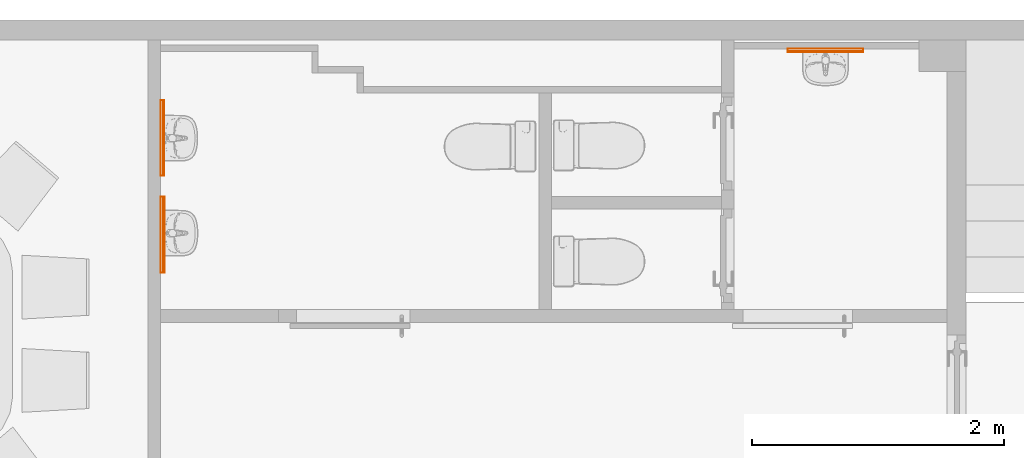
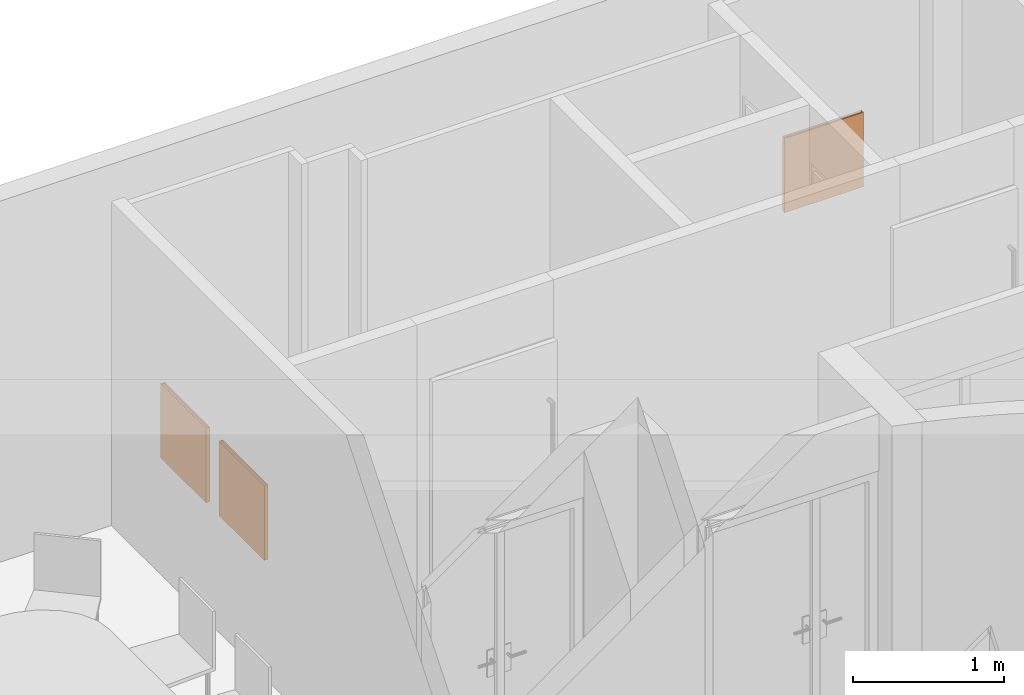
"""IFC4 building model written with IfcOpenShell, lengths in metres."""

from ifc_helpers import new_model, entity, si_unit, converted_unit, derived_unit, frame, origin, origin_with_axes, place, context, subcontext, project, spatial, open_shell, surface_model, source, transform, mapped, element, save


model = new_model("IFC4")

# Units and contexts
model_context = context("Model", 3, precision=1e-05, world=origin())
body_context = subcontext(model_context, "Body", "Model", "MODEL_VIEW")
ifc_project = project(units=[si_unit("LENGTHUNIT", "METRE"), si_unit("AREAUNIT", "SQUARE_METRE"), si_unit("VOLUMEUNIT", "CUBIC_METRE"), si_unit("MASSUNIT", "GRAM", prefix="KILO"), converted_unit("PLANEANGLEUNIT", "DEGREE", entity("IfcPlaneAngleMeasure", 0.0174532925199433), si_unit("PLANEANGLEUNIT", "RADIAN"), dimensions=[0, 0, 0, 0, 0, 0, 0]), derived_unit("THERMALTRANSMITTANCEUNIT", [(si_unit("POWERUNIT", "WATT"), 1), (si_unit("THERMODYNAMICTEMPERATUREUNIT", "KELVIN"), -1), (si_unit("LENGTHUNIT", "METRE"), -2)]), derived_unit("VOLUMETRICFLOWRATEUNIT", [(si_unit("LENGTHUNIT", "METRE"), 3), (converted_unit("TIMEUNIT", "hour", entity("IfcTimeMeasure", 3600.0), si_unit("TIMEUNIT", "SECOND"), dimensions=[0, 0, 1, 0, 0, 0, 0]), -1), (si_unit("LENGTHUNIT", "METRE"), -1)])], contexts=[model_context])

# Building, storeys
building_placement = place(None, origin())
building = spatial("IfcBuilding", under=ifc_project, at=building_placement, Name="HABITATGE PLURIFAMILIAR", CompositionType="ELEMENT")
storey_1_placement = place(building_placement, frame((0.0, 0.0, 15.28)))
storey_1 = spatial("IfcBuildingStorey", under=building, at=storey_1_placement, Name="PLANTA QUARTA", CompositionType="ELEMENT", Elevation=15.28)
storey_2_placement = place(storey_1_placement, frame((0.0, 0.0, 12.27)))
storey_2 = spatial("IfcBuildingStorey", under=storey_1, at=storey_2_placement, Name="NOU", CompositionType="PARTIAL")

# Proxies
shared_shape = source(origin_with_axes(), body_context, "Body", "SurfaceModel", [
    surface_model("IfcShellBasedSurfaceModel", [(0.6, 0.01, 0.6), (0.6, 0.01, 0.0), (0.0, 0.01, 0.0), (0.0, 0.01, 0.6), (0.0, 0.03, 0.0), (0.0, 0.03, 0.6), (0.6, 0.03, 0.0), (0.6, 0.03, 0.6)], [open_shell([[[0, 1, 2, 3]], [[3, 2, 4, 5]], [[5, 4, 6, 7]], [[7, 6, 1, 0]]], orient=[[False], [False], [False], [False]])]),
    surface_model("IfcShellBasedSurfaceModel", [(0.0, 0.0, 0.0), (0.6, 0.0, 0.0), (0.6, 0.01, 0.0), (0.0, 0.01, 0.0), (0.0, 0.0, 0.6), (0.6, 0.0, 0.6), (0.6, 0.01, 0.6), (0.0, 0.01, 0.6)], [open_shell([[[0, 1, 2, 3]], [[0, 4, 5, 1]], [[1, 5, 6, 2]], [[2, 6, 7, 3]], [[3, 7, 4, 0]]], orient=[[False], [False], [False], [False], [False]])]),
])
proxy_placement = place(storey_2_placement, frame((409.414317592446, 27.9712997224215, -11.47)))
element("IfcBuildingElementProxy", 1, at=proxy_placement, inside=storey_2, Name="Mirall P4", context=body_context, shape_type="MappedRepresentation", body=[
    mapped(shared_shape, transform((0.0, 0.0, 0.0), x_axis=(1.0, 0.0, 0.0), y_axis=(0.0, 1.0, 0.0), z_axis=(0.0, 0.0, 1.0), scale=1.0)),
])
for number, where, z_axis, x_axis, name in (
    (2, (404.466984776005, 26.9905155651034, -11.47), (0.0, 0.0, 1.0), (1.22464679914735e-16, 1.0, 0.0), "Mirall P4"),
    (3, (404.468308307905, 26.2238560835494, -11.47), (0.0, 0.0, 1.0), (1.22464679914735e-16, 1.0, 0.0), "Mirall P4"),
):
    element("IfcBuildingElementProxy", number, at=place(storey_2_placement, frame(where, z_axis=z_axis, x_axis=x_axis)), inside=storey_2, Name=name, context=body_context, shape_type="MappedRepresentation", body=[
        mapped(shared_shape, transform((0.0, 0.0, 0.0), x_axis=(1.0, 0.0, 0.0), y_axis=(0.0, 1.0, 0.0), z_axis=(0.0, 0.0, 1.0), scale=1.0)),
    ])

save(model, "model.ifc")
